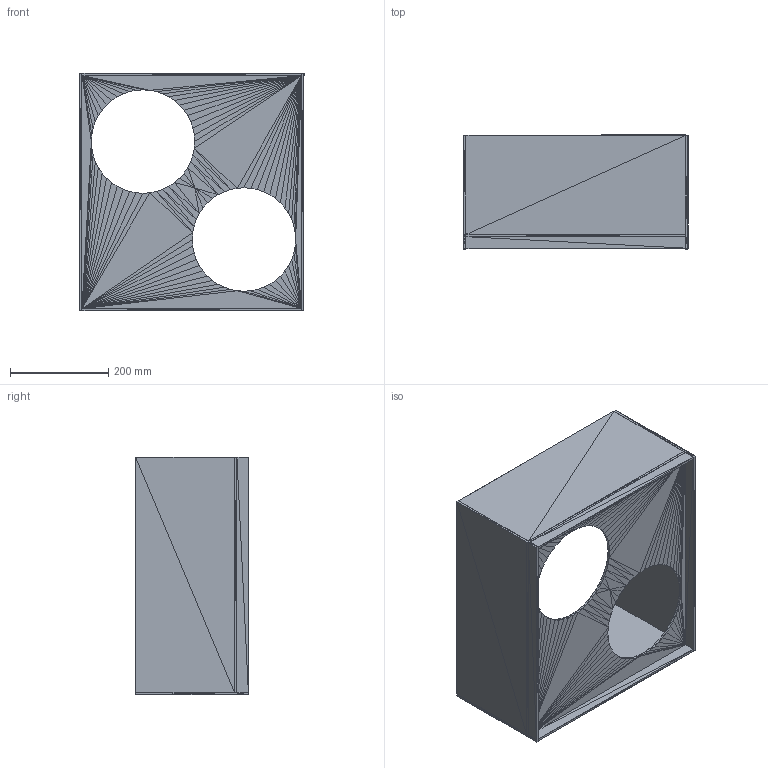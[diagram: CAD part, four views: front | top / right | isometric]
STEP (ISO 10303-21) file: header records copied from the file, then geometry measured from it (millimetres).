
FILE_DESCRIPTION((''),'2;1');
FILE_NAME('Guitar CAB ELECTRONIC+ Case for Guitar pedal project', '2026-10-11T09:52:03', (''), (''), 'ImageToStl.com STEP Converter','', '');
FILE_SCHEMA(('AUTOMOTIVE_DESIGN_CC2'));
Length unit declared in the file: millimetre
Products named in the file (1): product0
Bounding box: 457 x 231 x 483 mm (x, y, z)
Surface area: 1243056.9 mm2 (no closed solid volume)
Topology: 0 solids, 29966 shells, 29966 faces, 89898 edges, 13327 vertices
Faces by surface type: plane 29966
Entity records: 685933 total; most frequent: DIRECTION 149832, ORIENTED_EDGE 89898, EDGE_CURVE 89898, LINE 89898, VECTOR 89898, AXIS2_PLACEMENT_3D 29967, FACE_SURFACE 29966, PLANE 29966
